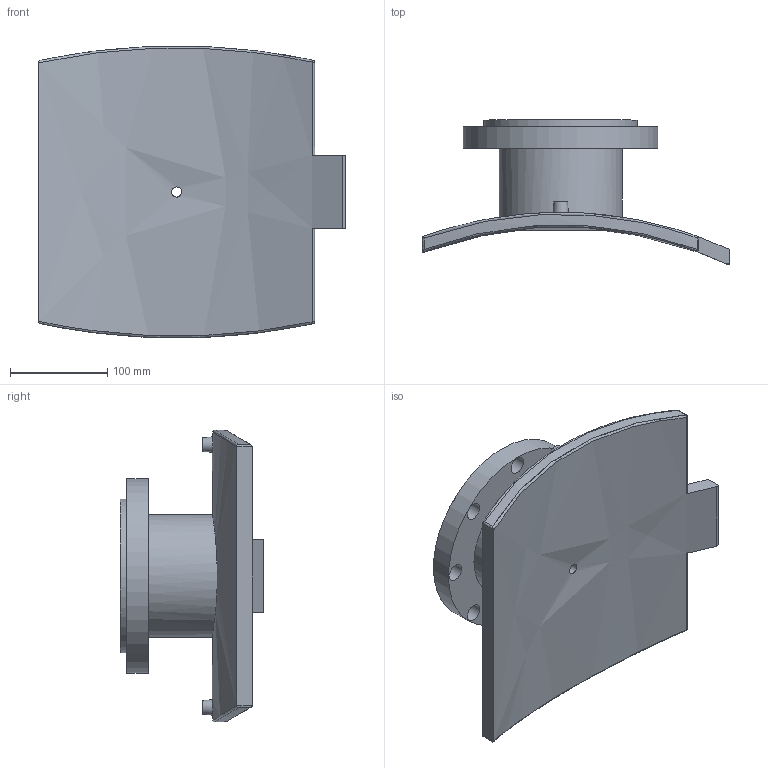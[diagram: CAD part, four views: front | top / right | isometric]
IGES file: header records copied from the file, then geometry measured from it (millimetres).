
Global section: file name: 495904710100T; native system: Autodesk Inventor 2019; preprocessor: unknown; author: KIM; date: 20240403.210033; units: millimetre
Bounding box: 315 x 147.89 x 299.55 mm (x, y, z)
Volume: 2180359.1 mm3; surface area: 317023.6 mm2
Topology: 1 solids, 1 shells, 58 faces, 151 edges, 118 vertices
Faces by surface type: bspline 58
